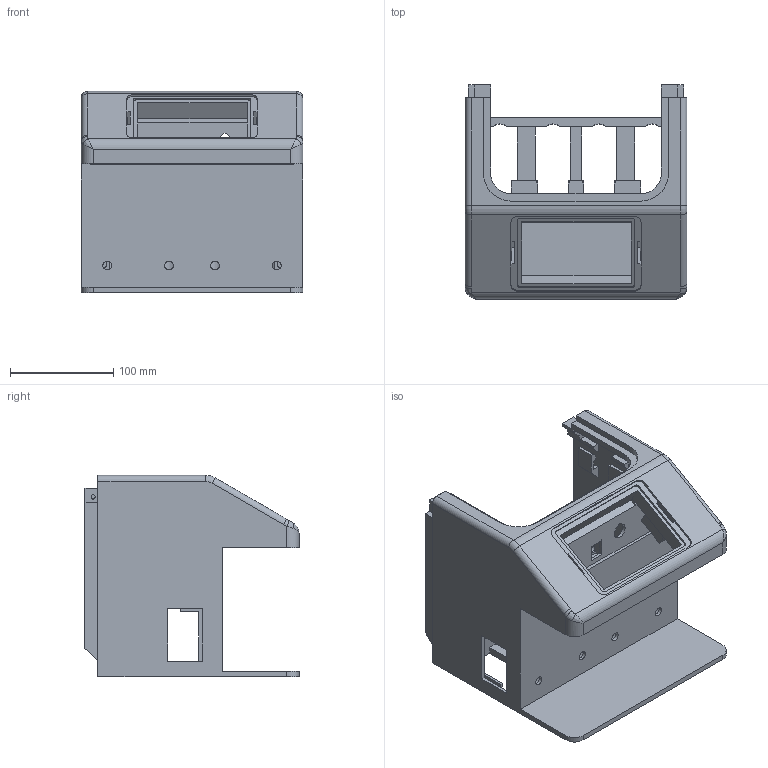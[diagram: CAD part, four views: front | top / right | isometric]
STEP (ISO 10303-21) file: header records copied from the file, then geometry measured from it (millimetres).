
FILE_DESCRIPTION(('Open CASCADE Model'),'2;1');
FILE_NAME('Open CASCADE Shape Model','1970-01-01T00:00:00',('Author'),( 'Open CASCADE'),'Open CASCADE STEP processor 7.8','Open CASCADE 7.8' ,'Unknown');
FILE_SCHEMA(('AUTOMOTIVE_DESIGN { 1 0 10303 214 1 1 1 1 }'));
Length unit declared in the file: millimetre
Products named in the file (2): Open CASCADE STEP translator 7.8 2; enclosure-front-top
Assembly tree (1 placements, depth 2):
  Open CASCADE STEP translator 7.8 2
    enclosure-front-top
Bounding box: 215 x 207.55 x 195 mm (x, y, z)
Volume: 1418044.9 mm3; surface area: 342987.4 mm2
Topology: 1 solids, 1 shells, 591 faces, 1615 edges, 1066 vertices
Faces by surface type: plane 476, cylinder 101, bspline 12, torus 2
Full cylindrical faces by diameter (mm): 6.57 x2, 8.5 x4, 10.57 x2
Entity records: 39846 total; most frequent: CARTESIAN_POINT 8441, DIRECTION 5472, LINE 3770, VECTOR 3770, ORIENTED_EDGE 3226, PCURVE 3226, DEFINITIONAL_REPRESENTATION 3226, EDGE_CURVE 1613
